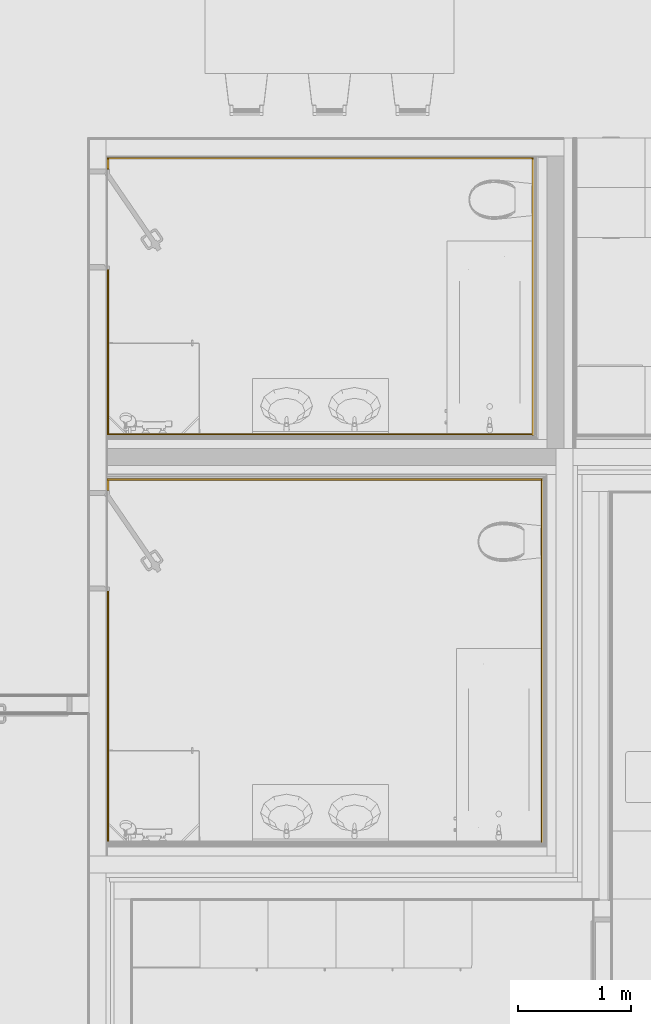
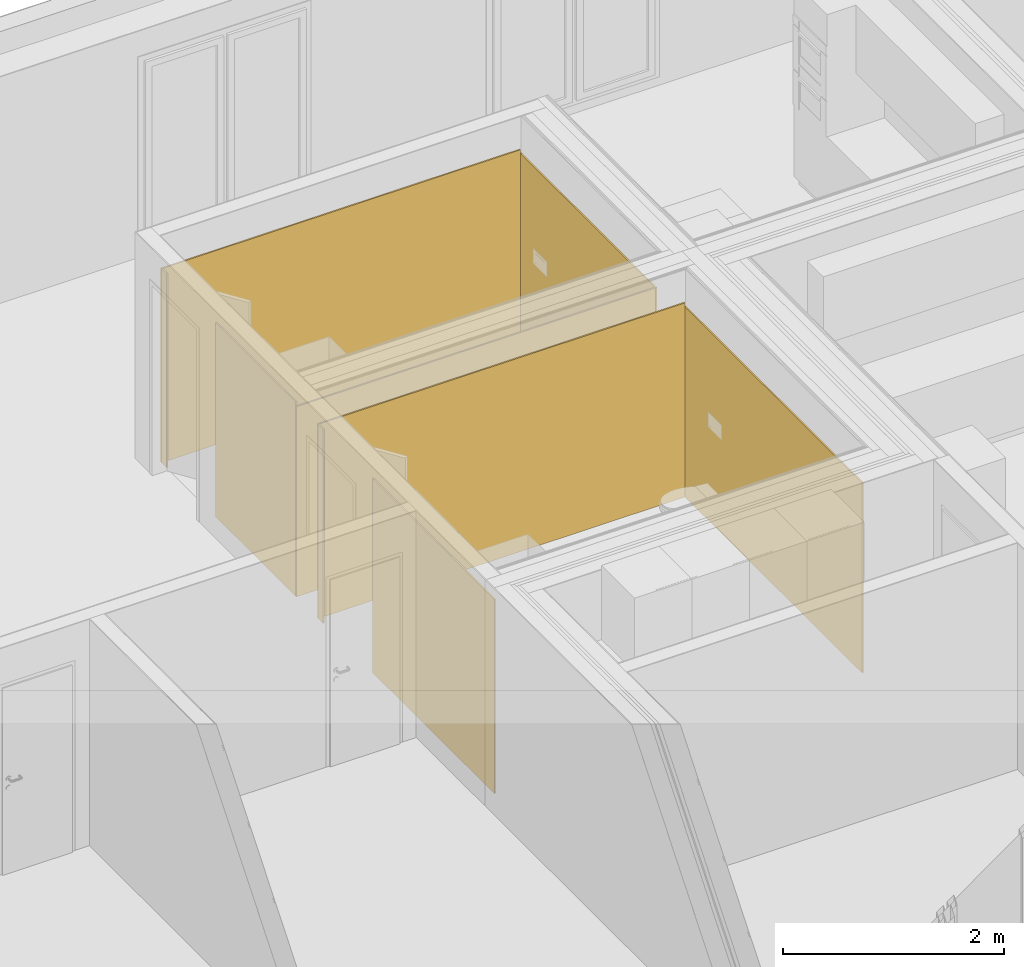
# One storey, part 26 of 34: 9 coverings.
"""IFC4 building model written with IfcOpenShell, lengths in millimetres."""

from ifc_helpers import new_model, entity, si_unit, converted_unit, derived_unit, direction, frame, origin_with_axes, place, context, subcontext, project, spatial, polygons, material, constituent, constituent_set, type_object, element, save


model = new_model("IFC4")

# Units and contexts
model_context = context("Model", 3, precision=0.01, world=origin_with_axes(), true_north=direction((0.0, 1.0)))
body_context = subcontext(model_context, "Body", "Model", "MODEL_VIEW")
ifc_project = project(units=[si_unit("LENGTHUNIT", "METRE", prefix="MILLI"), si_unit("AREAUNIT", "SQUARE_METRE"), si_unit("VOLUMEUNIT", "CUBIC_METRE"), converted_unit("PLANEANGLEUNIT", "DEGREE", entity("IfcPlaneAngleMeasure", 0.0174532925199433), si_unit("PLANEANGLEUNIT", "RADIAN"), dimensions=[0, 0, 0, 0, 0, 0, 0]), converted_unit("TIMEUNIT", "Year", entity("IfcTimeMeasure", 31557600.0), si_unit("TIMEUNIT", "SECOND"), dimensions=[0, 0, 1, 0, 0, 0, 0]), si_unit("MASSUNIT", "GRAM", prefix="KILO"), si_unit("THERMODYNAMICTEMPERATUREUNIT", "DEGREE_CELSIUS"), si_unit("LUMINOUSINTENSITYUNIT", "LUMEN"), si_unit("ENERGYUNIT", "JOULE", prefix="MEGA"), derived_unit("THERMALCONDUCTANCEUNIT", [(si_unit("POWERUNIT", "WATT"), 1), (si_unit("LENGTHUNIT", "METRE"), -1), (si_unit("THERMODYNAMICTEMPERATUREUNIT", "KELVIN"), -1)]), derived_unit("SPECIFICHEATCAPACITYUNIT", [(si_unit("ENERGYUNIT", "JOULE"), 1), (si_unit("MASSUNIT", "GRAM", prefix="KILO"), -1), (si_unit("THERMODYNAMICTEMPERATUREUNIT", "KELVIN"), -1)]), derived_unit("MASSDENSITYUNIT", [(si_unit("MASSUNIT", "GRAM", prefix="KILO"), 1), (si_unit("VOLUMEUNIT", "CUBIC_METRE"), -1)])], contexts=[model_context])

# Site, building, storey
site_placement = place(None, origin_with_axes())
site = spatial("IfcSite", under=ifc_project, at=site_placement, Name="Gelände", CompositionType="ELEMENT")
building_placement = place(site_placement, origin_with_axes())
building = spatial("IfcBuilding", under=site, at=building_placement, Name="Gebäude", CompositionType="ELEMENT")
storey_placement = place(building_placement, frame((0.0, 0.0, 2900.0), z_axis=(0.0, 0.0, 1.0), x_axis=(1.0, 0.0, 0.0)))
storey = spatial("IfcBuildingStorey", under=building, at=storey_placement, Name="1.OG", CompositionType="ELEMENT", Elevation=2900.0)

# Coverings
ifc_material = material(Name="Naturstein")
ifc_constituent_1 = constituent(ifc_material, Name="Naturstein")
ifc_constituent_set_1 = constituent_set(constituents=[ifc_constituent_1], Name="Wandbekleidung Typ 01")
covering_type = type_object("IfcCoveringType", Name="Wandbekleidung Typ 01 15", PredefinedType="NOTDEFINED")
covering_1_placement = place(storey_placement, frame((297.9958184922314, 31682.59728131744, 149.9999999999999), z_axis=(0.0, 0.0, 1.0), x_axis=(1.0, 0.0, 0.0)))
element("IfcCovering", 1, at=covering_1_placement, inside=storey, type_object=covering_type, material=ifc_constituent_set_1, Name="Wand-014", PredefinedType="NOTDEFINED", context=body_context, shape_type="Tessellation", body=[
    polygons([(-14.99999999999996, 15.00000000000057, 2145.0), (3818.000000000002, 15.00000000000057, 2145.0), (3818.000000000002, 15.00000000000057, 2100.0), (3833.000000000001, 15.00000000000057, 2100.0), (3833.000000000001, 15.00000000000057, 0.0), (-14.99999999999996, 15.00000000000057, 0.0), (-14.99999999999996, 0.0, 2145.0), (3818.000000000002, 0.0, 2145.0), (3818.000000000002, 0.0, 2100.0), (3833.000000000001, 0.0, 2100.0), (3833.000000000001, 0.0, 0.0), (-14.99999999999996, 0.0, 0.0)], [[[1, 2, 3, 4, 5, 6]], [[7, 8, 2, 1]], [[9, 3, 2, 8]], [[9, 10, 4, 3]], [[5, 4, 10, 11]], [[6, 5, 11, 12]], [[1, 6, 12, 7]], [[10, 9, 8, 7, 12, 11]]], closed=True),
])
ifc_constituent_2 = constituent(ifc_material, Name="Naturstein")
ifc_constituent_set_2 = constituent_set(constituents=[ifc_constituent_2], Name="Wandbekleidung Typ 01")
covering_2_placement = place(storey_placement, frame((297.9958184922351, 30702.59728131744, 149.9999999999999), z_axis=(0.0, 0.0, 1.0), x_axis=(0.0, -1.0, 0.0)))
element("IfcCovering", 2, at=covering_2_placement, inside=storey, type_object=covering_type, material=ifc_constituent_set_2, Name="Wand-014", PredefinedType="NOTDEFINED", context=body_context, shape_type="Tessellation", body=[
    polygons([(2208.223895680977, -15.00000000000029, 2145.0), (2208.223895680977, -15.00000000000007, 2100.0), (2208.223895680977, -15.00000000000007, 0.0), (2208.223895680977, 0.0, 0.0), (2208.223895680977, 0.0, 2100.0), (2208.223895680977, 0.0, 2145.0), (0.0, -15.00000000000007, 0.0), (0.0, -14.99999999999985, 2145.0), (0.0, 0.0, 0.0), (0.0, 0.0, 2145.0)], [[[1, 2, 3, 4, 5, 6]], [[7, 3, 2, 1, 8]], [[9, 4, 3, 7]], [[6, 5, 4, 9, 10]], [[10, 8, 1, 6]], [[10, 9, 7, 8]]], closed=True),
])
ifc_constituent_3 = constituent(ifc_material, Name="Naturstein")
ifc_constituent_set_3 = constituent_set(constituents=[ifc_constituent_3], Name="Wandbekleidung Typ 01")
covering_3_placement = place(storey_placement, frame((297.9958184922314, 31682.59728131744, 149.9999999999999), z_axis=(0.0, 0.0, 1.0), x_axis=(0.0, -1.0, 0.0)))
element("IfcCovering", 3, at=covering_3_placement, inside=storey, type_object=covering_type, material=ifc_constituent_set_3, Name="Wand-014", PredefinedType="NOTDEFINED", context=body_context, shape_type="Tessellation", body=[
    polygons([(0.0, -14.99999999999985, 2145.0), (89.9999999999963, -14.9999999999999, 2145.0), (89.9999999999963, 0.0, 2145.0), (0.0, 0.0, 2145.0), (0.0, -15.00000000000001, 0.0), (89.9999999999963, -15.00000000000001, 0.0), (89.9999999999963, 0.0, 0.0), (0.0, 0.0, 0.0)], [[[1, 2, 3, 4]], [[5, 6, 2, 1]], [[3, 2, 6, 7]], [[4, 3, 7, 8]], [[5, 1, 4, 8]], [[8, 7, 6, 5]]], closed=True),
])
ifc_constituent_4 = constituent(ifc_material, Name="Naturstein")
ifc_constituent_set_4 = constituent_set(constituents=[ifc_constituent_4], Name="Wandbekleidung Typ 01")
covering_4_placement = place(storey_placement, frame((4035.773549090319, 32092.59728131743, 149.9999999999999), z_axis=(0.0, 0.0, 1.0), x_axis=(-1.0, 0.0, 0.0)))
element("IfcCovering", 4, at=covering_4_placement, inside=storey, type_object=covering_type, material=ifc_constituent_set_4, Name="Wand-014", PredefinedType="NOTDEFINED", context=body_context, shape_type="Tessellation", body=[
    polygons([(3752.777730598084, 15.00000000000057, 0.0), (3752.777730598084, 0.0, 0.0), (0.0, 0.0, 0.0), (0.0, 15.00000000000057, 0.0), (3752.777730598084, 15.00000000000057, 2100.0), (3752.777730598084, 0.0, 2100.0), (0.0, 0.0, 2100.0), (0.0, 15.00000000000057, 2100.0)], [[[1, 2, 3, 4]], [[2, 1, 5, 6]], [[2, 6, 7, 3]], [[8, 4, 3, 7]], [[5, 1, 4, 8]], [[6, 5, 8, 7]]], closed=True),
])
ifc_constituent_5 = constituent(ifc_material, Name="Naturstein")
ifc_constituent_set_5 = constituent_set(constituents=[ifc_constituent_5], Name="Wandbekleidung Typ 01")
covering_5_placement = place(storey_placement, frame((4115.995818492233, 28494.37338563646, 149.9999999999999), z_axis=(0.0, 0.0, 1.0), x_axis=(0.0, 1.0, 0.0)))
element("IfcCovering", 5, at=covering_5_placement, inside=storey, type_object=covering_type, material=ifc_constituent_set_5, Name="Wand-014", PredefinedType="NOTDEFINED", context=body_context, shape_type="Tessellation", body=[
    polygons([(3188.223895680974, -14.99999999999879, 2100.0), (3188.223895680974, 0.0, 2100.0), (-15.00000000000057, 0.0, 2100.0), (-15.00000000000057, -14.99999999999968, 2100.0), (3188.223895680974, -14.99999999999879, 0.0), (3188.223895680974, 0.0, 0.0), (-15.00000000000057, 0.0, 0.0), (-15.00000000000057, -14.99999999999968, 0.0)], [[[1, 2, 3, 4]], [[2, 1, 5, 6]], [[2, 6, 7, 3]], [[8, 4, 3, 7]], [[5, 1, 4, 8]], [[6, 5, 8, 7]]], closed=True),
])
ifc_constituent_6 = constituent(ifc_material, Name="Naturstein")
ifc_constituent_set_6 = constituent_set(constituents=[ifc_constituent_6], Name="Wandbekleidung Typ 01")
covering_6_placement = place(storey_placement, frame((297.9958184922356, 33539.06370406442, 149.9999999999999), z_axis=(0.0, 0.0, 1.0), x_axis=(0.0, -1.0, 0.0)))
element("IfcCovering", 6, at=covering_6_placement, inside=storey, type_object=covering_type, material=ifc_constituent_set_6, Name="Wand-014", PredefinedType="NOTDEFINED", context=body_context, shape_type="Tessellation", body=[
    polygons([(1446.466422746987, -15.00000000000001, 2145.0), (1446.466422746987, -15.00000000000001, 2100.0), (1446.466422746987, -15.00000000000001, 0.0), (1446.466422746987, 0.0, 0.0), (1446.466422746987, 0.0, 2100.0), (1446.466422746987, 0.0, 2145.0), (0.0, -15.00000000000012, 0.0), (0.0, -14.9999999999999, 2145.0), (0.0, 0.0, 0.0), (0.0, 0.0, 2145.0)], [[[1, 2, 3, 4, 5, 6]], [[7, 3, 2, 1, 8]], [[9, 4, 3, 7]], [[6, 5, 4, 9, 10]], [[10, 8, 1, 6]], [[10, 9, 7, 8]]], closed=True),
])
ifc_constituent_7 = constituent(ifc_material, Name="Naturstein")
ifc_constituent_set_7 = constituent_set(constituents=[ifc_constituent_7], Name="Wandbekleidung Typ 01")
covering_7_placement = place(storey_placement, frame((4035.773549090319, 32092.59728131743, 149.9999999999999), z_axis=(0.0, 0.0, 1.0), x_axis=(0.0, 1.0, 0.0)))
element("IfcCovering", 7, at=covering_7_placement, inside=storey, type_object=covering_type, material=ifc_constituent_set_7, Name="Wand-014", PredefinedType="NOTDEFINED", context=body_context, shape_type="Tessellation", body=[
    polygons([(2426.466422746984, -14.99999999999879, 2100.0), (2426.466422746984, 0.0, 2100.0), (-15.00000000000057, 0.0, 2100.0), (-15.00000000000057, -14.99999999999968, 2100.0), (2426.466422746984, -14.99999999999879, 0.0), (2426.466422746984, 0.0, 0.0), (-15.00000000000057, 0.0, 0.0), (-15.00000000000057, -14.99999999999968, 0.0)], [[[1, 2, 3, 4]], [[2, 1, 5, 6]], [[2, 6, 7, 3]], [[8, 4, 3, 7]], [[5, 1, 4, 8]], [[6, 5, 8, 7]]], closed=True),
])
ifc_constituent_8 = constituent(ifc_material, Name="Naturstein")
ifc_constituent_set_8 = constituent_set(constituents=[ifc_constituent_8], Name="Wandbekleidung Typ 01")
covering_8_placement = place(storey_placement, frame((297.9958184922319, 34519.06370406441, 149.9999999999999), z_axis=(0.0, 0.0, 1.0), x_axis=(0.0, -1.0, 0.0)))
element("IfcCovering", 8, at=covering_8_placement, inside=storey, type_object=covering_type, material=ifc_constituent_set_8, Name="Wand-014", PredefinedType="NOTDEFINED", context=body_context, shape_type="Tessellation", body=[
    polygons([(0.0, -14.99999999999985, 2145.0), (89.9999999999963, -14.9999999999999, 2145.0), (89.9999999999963, 0.0, 2145.0), (0.0, 0.0, 2145.0), (0.0, -15.00000000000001, 0.0), (89.9999999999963, -15.00000000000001, 0.0), (89.9999999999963, 0.0, 0.0), (0.0, 0.0, 0.0)], [[[1, 2, 3, 4]], [[5, 6, 2, 1]], [[3, 2, 6, 7]], [[4, 3, 7, 8]], [[5, 1, 4, 8]], [[8, 7, 6, 5]]], closed=True),
])
ifc_constituent_9 = constituent(ifc_material, Name="Naturstein")
ifc_constituent_set_9 = constituent_set(constituents=[ifc_constituent_9], Name="Wandbekleidung Typ 01")
covering_9_placement = place(storey_placement, frame((297.9958184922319, 34519.06370406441, 149.9999999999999), z_axis=(0.0, 0.0, 1.0), x_axis=(1.0, 0.0, 0.0)))
element("IfcCovering", 9, at=covering_9_placement, inside=storey, type_object=covering_type, material=ifc_constituent_set_9, Name="Wand-014", PredefinedType="NOTDEFINED", context=body_context, shape_type="Tessellation", body=[
    polygons([(-15.00000000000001, 15.00000000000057, 2145.0), (3737.777730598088, 15.00000000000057, 2145.0), (3737.777730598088, 15.00000000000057, 2100.0), (3752.777730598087, 15.00000000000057, 2100.0), (3752.777730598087, 15.00000000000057, 0.0), (-15.00000000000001, 15.00000000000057, 0.0), (-15.00000000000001, 0.0, 2145.0), (3737.777730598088, 0.0, 2145.0), (3737.777730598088, 0.0, 2100.0), (3752.777730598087, 0.0, 2100.0), (3752.777730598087, 0.0, 0.0), (-15.00000000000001, 0.0, 0.0)], [[[1, 2, 3, 4, 5, 6]], [[7, 8, 2, 1]], [[9, 3, 2, 8]], [[9, 10, 4, 3]], [[5, 4, 10, 11]], [[6, 5, 11, 12]], [[1, 6, 12, 7]], [[10, 9, 8, 7, 12, 11]]], closed=True),
])

save(model, "model.ifc")
